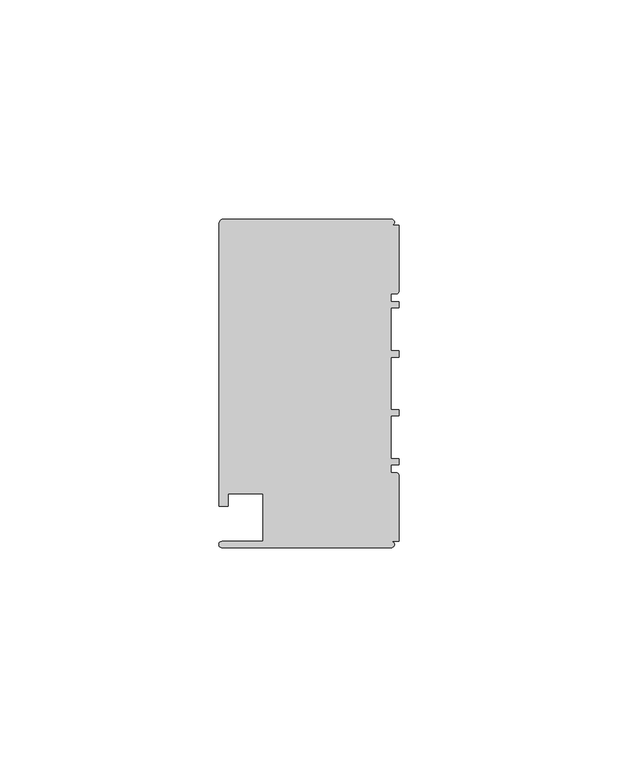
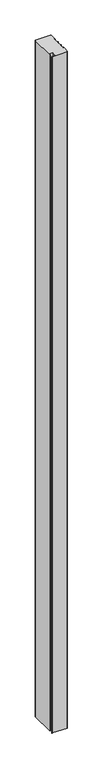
"""IFC4 building model written with IfcOpenShell, lengths in millimetres: member geometry, Прямоугольный импост : 1-AMG-1-Профиль 40Х75 Верх П."""

from ifc_helpers import new_model, si_unit, point, frame, frame_2d, origin, place, context, project, spatial, polyline, circle_curve, trimmed, segment, composite_curve, outline, extrude, source, transform, mapped, element, save


def member_fc993b9b(model_context):
    return source(origin(), model_context, "Body", "SweptSolid", [
        extrude(outline(composite_curve([segment(polyline([(-1.7, -37.5), (-40.4, -37.5)]), True, "CONTINUOUS"), segment(trimmed(circle_curve(frame_2d((-40.4, -36.8)), 0.7), [point((-40.4, -37.5))], [point((-40.4, -36.1))], False, "CARTESIAN"), True, "CONTINUOUS"), segment(polyline([(-40.4, -36.1), (-31.0, -36.1), (-31.0, -25.25), (-39.0, -25.25), (-39.0, -28.1), (-41.1, -28.1), (-41.1, 36.1)]), True, "CONTINUOUS"), segment(trimmed(circle_curve(frame_2d((-39.7541527, 36.3020763)), 1.3609334), [point((-41.1, 36.1))], [point((-40.4, 37.5))], False, "CARTESIAN"), True, "CONTINUOUS"), segment(polyline([(-40.4, 37.5), (-1.7, 37.5)]), True, "CONTINUOUS"), segment(trimmed(circle_curve(frame_2d((-1.7, 36.8)), 0.7), [point((-1.7, 37.5))], [point((-1.7, 36.1))], False, "CARTESIAN"), True, "CONTINUOUS"), segment(polyline([(-1.7, 36.1), (0.0, 36.1), (0.0, 20.95)]), True, "CONTINUOUS"), segment(trimmed(circle_curve(frame_2d((-0.5, 20.95)), 0.5), [point((0.0, 20.95))], [point((-0.5, 20.45))], False, "CARTESIAN"), True, "CONTINUOUS"), segment(polyline([(-0.5, 20.45), (-1.8, 20.45), (-1.8, 18.65), (0.0, 18.65), (0.0, 17.25), (-1.8, 17.25), (-1.8, 7.4), (0.0, 7.4), (0.0, 6.0), (-1.8, 6.0), (-1.8, -6.0), (0.0, -6.0), (0.0, -7.4), (-1.8, -7.4), (-1.8, -17.25), (0.0, -17.25), (0.0, -18.65), (-1.8, -18.65), (-1.8, -20.45), (-0.5, -20.45)]), True, "CONTINUOUS"), segment(trimmed(circle_curve(frame_2d((-0.5, -20.95)), 0.5), [point((-0.5, -20.45))], [point((0.0, -20.95))], False, "CARTESIAN"), True, "CONTINUOUS"), segment(polyline([(0.0, -20.95), (0.0, -36.1), (-1.7, -36.1)]), True, "CONTINUOUS"), segment(trimmed(circle_curve(frame_2d((-1.7, -36.8)), 0.7), [point((-1.7, -36.1))], [point((-1.7, -37.5))], False, "CARTESIAN"), True, "CONTINUOUS")], self_intersect=False)), frame((0.0, 0.0, -1833.8849139), z_axis=(0.0, 0.0, 1.0), x_axis=(1.0, 0.0, 0.0)), (0.0, 0.0, 1.0), 1833.8849139),
    ])


if __name__ == "__main__":
    model = new_model("IFC4")
    model_context = context("Model", 3, world=origin())
    ifc_project = project(units=[si_unit("LENGTHUNIT", "METRE", prefix="MILLI")], contexts=[model_context])
    site = spatial("IfcSite", under=ifc_project)
    building = spatial("IfcBuilding", under=site)
    placement = place(None, origin())
    member_shape = member_fc993b9b(model_context)
    element("IfcMember", 1, ObjectType="Прямоугольный импост : 1-AMG-1-Профиль 40Х75 Верх П", at=placement, inside=building, context=model_context, shape_type="MappedRepresentation", body=[
        mapped(member_shape, transform((0.0, 0.0, 0.0), x_axis=(1.0, 0.0, 0.0), y_axis=(0.0, 1.0, 0.0), z_axis=(0.0, 0.0, 1.0))),
    ])
    save(model, "model.ifc")
